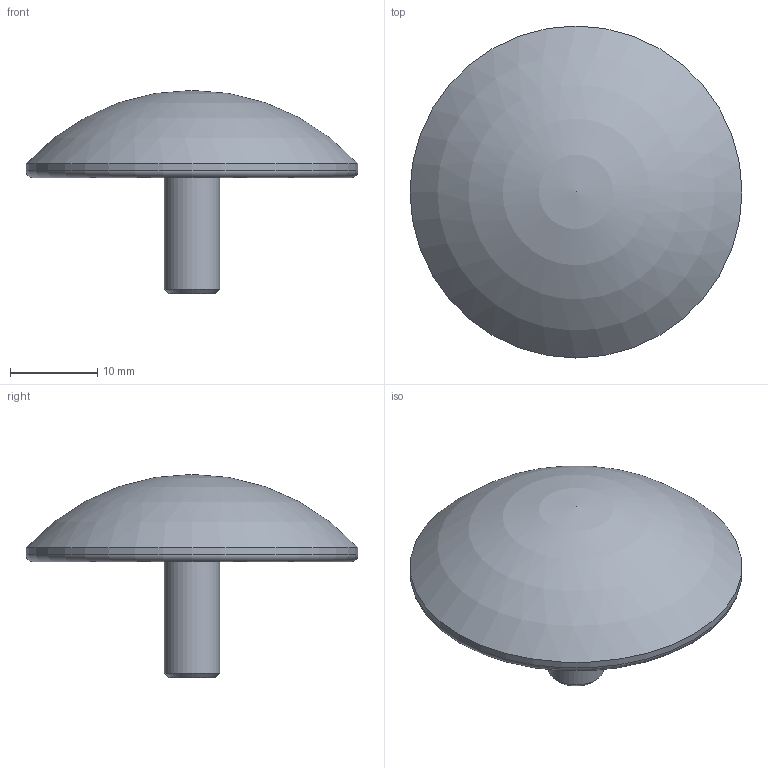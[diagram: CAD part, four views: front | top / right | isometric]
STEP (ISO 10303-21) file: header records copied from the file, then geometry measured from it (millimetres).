
FILE_DESCRIPTION(('Open CASCADE Model'),'2;1');
FILE_NAME('Open CASCADE Shape Model','2026-11-10T19:19:04',('Author'),( 'Open CASCADE'),'Open CASCADE STEP processor 7.9','Open CASCADE 7.9' ,'Unknown');
FILE_SCHEMA(('AUTOMOTIVE_DESIGN { 1 0 10303 214 1 1 1 1 }'));
Length unit declared in the file: millimetre
Products named in the file (1): Open CASCADE STEP translator 7.9 8
Bounding box: 38.1 x 38.1 x 23.3 mm (x, y, z)
Volume: 6493 mm3; surface area: 3049.3 mm2
Topology: 1 solids, 1 shells, 11 faces, 18 edges, 11 vertices
Faces by surface type: plane 4, cylinder 4, cone 1, torus 1, sphere 1
Full cylindrical faces by diameter (mm): 5.4 x1, 6.35 x1, 33 x1, 38.1 x1
Entity records: 486 total; most frequent: DIRECTION 87, CARTESIAN_POINT 74, ORIENTED_EDGE 34, PCURVE 34, DEFINITIONAL_REPRESENTATION 34, LINE 32, VECTOR 32, AXIS2_PLACEMENT_3D 24
